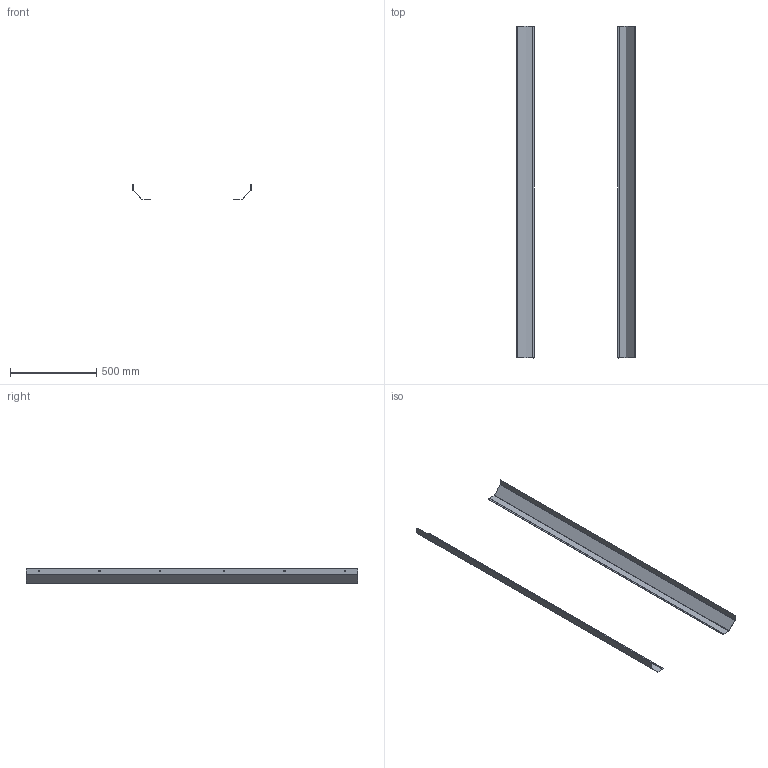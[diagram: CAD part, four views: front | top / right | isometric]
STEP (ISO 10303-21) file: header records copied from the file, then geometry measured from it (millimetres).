
FILE_DESCRIPTION (( 'STEP AP203' ), '1' );
FILE_NAME ('PP 200.80 IT 捘.STEP', '2022-11-30T12:14:53', ( '' ), ( '' ), 'SwSTEP 2.0', 'SolidWorks 2018', '' );
FILE_SCHEMA (( 'CONFIG_CONTROL_DESIGN' ));
Length unit declared in the file: millimetre
Products named in the file (2): PP 200.80 IT 捘; PP 200.80 IT 01.001 Ïàíåëü çàùèòû îò ïðèêîñíîâåíèÿ
Assembly tree (2 placements, depth 2):
  PP 200.80 IT 捘
    PP 200.80 IT 01.001 Ïàíåëü çàùèòû îò ïðèêîñíîâåíèÿ  x2
Bounding box: 687 x 1929 x 88.72 mm (x, y, z)
Volume: 726169.4 mm3; surface area: 1220572.2 mm2
Topology: 2 solids, 2 shells, 92 faces, 216 edges, 128 vertices
Faces by surface type: plane 56, cylinder 36
Entity records: 1548 total; most frequent: DIRECTION 246, CARTESIAN_POINT 223, ORIENTED_EDGE 216, EDGE_CURVE 108, AXIS2_PLACEMENT_3D 87, LINE 72, VECTOR 72, VERTEX_POINT 64
